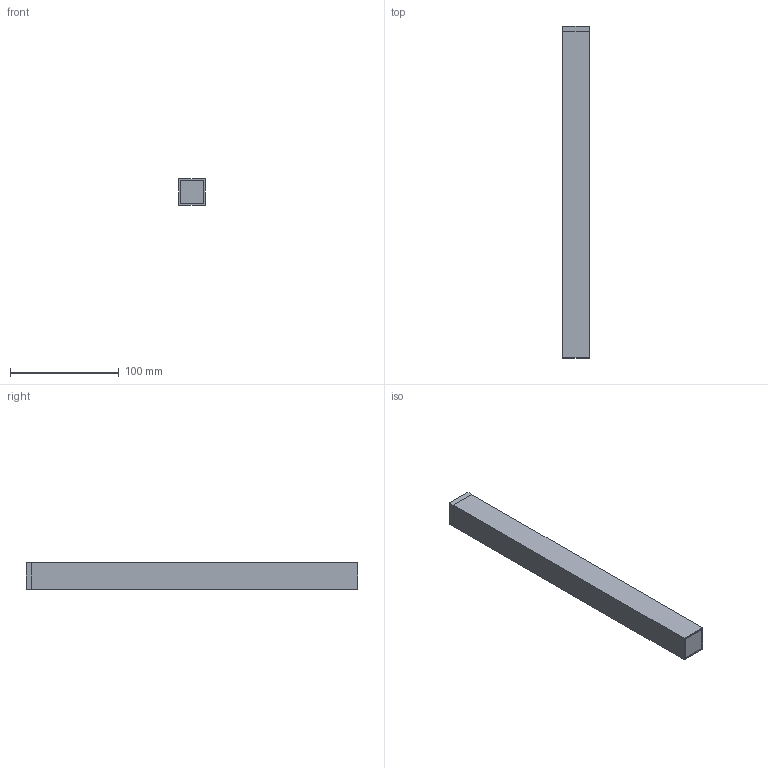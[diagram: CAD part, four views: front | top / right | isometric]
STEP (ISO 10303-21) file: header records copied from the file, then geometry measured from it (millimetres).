
FILE_DESCRIPTION(/* description */ (''),/* implementation_level */ '2;1');
FILE_NAME(/* name */ 'BM02-S2424-305L-N.step',/* time_stamp */ '2025-10-10T15:31:21+09:00',/* author */ (''),/* organization */ (''),/* preprocessor_version */ 'ST-DEVELOPER v20.1',/* originating_system */ 'Autodesk Translation Framework v14.17.0.0',/* authorisation */ '');
FILE_SCHEMA (('AUTOMOTIVE_DESIGN { 1 0 10303 214 3 1 1 }'));
Length unit declared in the file: millimetre
Products named in the file (4): BM02-S2424-305L-N; Component1; Component2; Component3
Assembly tree (3 placements, depth 2):
  BM02-S2424-305L-N
    Component1
    Component2
    Component3
Bounding box: 24 x 305 x 24 mm (x, y, z)
Volume: 156126.8 mm3; surface area: 82446.2 mm2
Topology: 4 solids, 4 shells, 39 faces, 85 edges, 55 vertices
Faces by surface type: plane 37, cone 1, cylinder 1
Full cylindrical faces by diameter (mm): 4.234 x1
Entity records: 1172 total; most frequent: CARTESIAN_POINT 185, DIRECTION 178, ORIENTED_EDGE 168, EDGE_CURVE 84, LINE 82, VECTOR 82, VERTEX_POINT 55, AXIS2_PLACEMENT_3D 48
